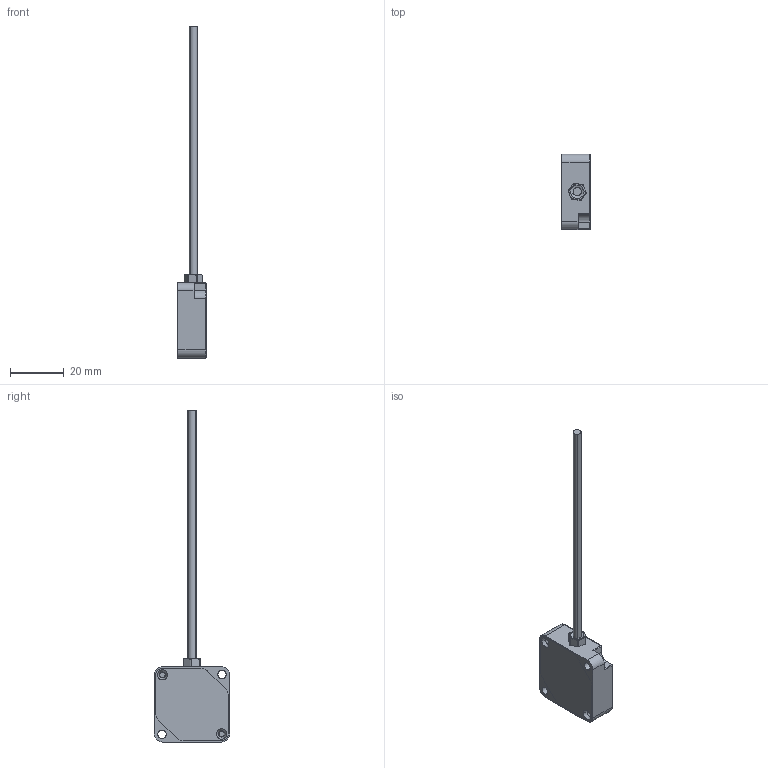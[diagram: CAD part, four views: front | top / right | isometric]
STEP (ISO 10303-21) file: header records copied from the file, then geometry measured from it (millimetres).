
FILE_DESCRIPTION (( 'STEP AP203' ), '1' );
FILE_NAME ('DATA30_0912_旳眻.STEP', '2023-09-12T03:56:33', ( '' ), ( '' ), 'SwSTEP 2.0', 'SolidWorks 2022', '' );
FILE_SCHEMA (( 'CONFIG_CONTROL_DESIGN' ));
Length unit declared in the file: millimetre
Products named in the file (6): DATA30_0912_旳眻; Gland_Nut_0724; omg10_滅阨盄_0906; New_Navigation_Omg10_2; New_Navigation_Up; New_Navigation_Omg10_荂豪_DATA10
Assembly tree (5 placements, depth 2):
  DATA30_0912_旳眻
    New_Navigation_Omg10_2
    Gland_Nut_0724
    New_Navigation_Up
    New_Navigation_Omg10_荂豪_DATA10
    omg10_滅阨盄_0906
Bounding box: 10.51 x 28 x 123.65 mm (x, y, z)
Volume: 4206.2 mm3; surface area: 6765.1 mm2
Topology: 155 solids, 155 shells, 1917 faces, 4752 edges, 3150 vertices
Faces by surface type: plane 1368, bspline 397, cylinder 124, torus 14, cone 10, sphere 4
Entity records: 75803 total; most frequent: CARTESIAN_POINT 32201, ORIENTED_EDGE 9496, DIRECTION 7258, EDGE_CURVE 4748, LINE 3666, VECTOR 3666, VERTEX_POINT 3150, EDGE_LOOP 1992
